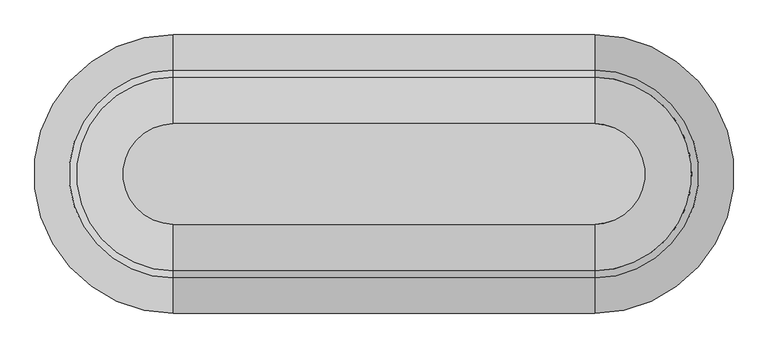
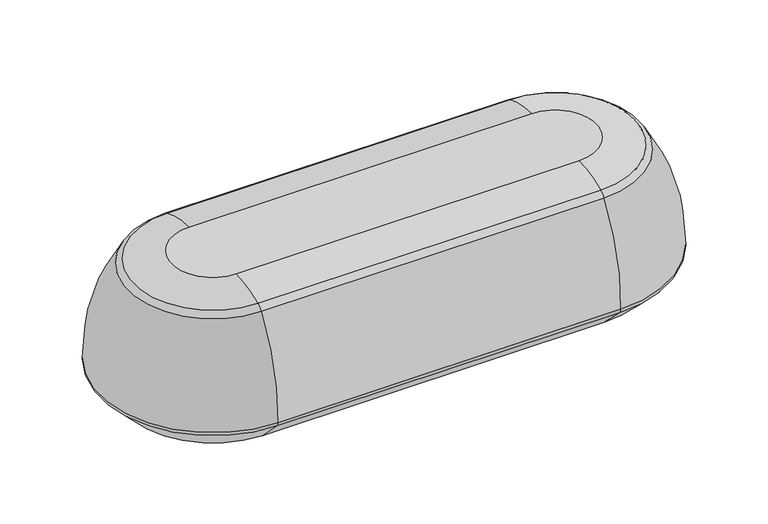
"""IFC4 building model written with IfcOpenShell, lengths in millimetres: furniture geometry, Pouf_Bensen_IlePouf_ILE004 : Pouf_Bensen_IlePouf_ILE004."""

from ifc_helpers import new_model, si_unit, point, frame, origin, place, context, project, spatial, polyline, circle_curve, ellipse_curve, trimmed, source, transform, mapped, element, save
from ifc_brep_helpers import plane_surface, cylinder_surface, revolved_surface, advanced_brep


def furniture_c3841720(model_context):
    return source(origin(), model_context, "Body", "AdvancedBrep", [
        advanced_brep(
        [(-499.4891283, -119.2740078, 420.0), (499.4891283, -119.2740078, 420.0), (499.4891283, 119.2740078, 420.0), (-499.4891283, 119.2740078, 420.0), (499.4891283, -249.1399046, 0.0), (-499.4891283, -249.1399046, 0.0), (-499.4891283, 249.1399046, 0.0), (499.4891283, 249.1399046, 0.0), (-499.4891283, -324.6759513, 75.5360466), (499.4891283, -324.6759513, 75.5360466), (499.4891283, -330.5227805, 89.0138906), (-499.4891283, -330.5227805, 89.0138906), (499.4891283, -246.8894749, 381.8574548), (-499.4891283, -246.8894749, 381.8574548), (499.4891283, -230.1522762, 396.0506005), (-499.4891283, -230.1522762, 396.0506005), (499.4891283, 324.6759513, 75.5360466), (-499.4891283, 324.6759513, 75.5360466), (-499.4891283, 330.5227805, 89.0138906), (499.4891283, 330.5227805, 89.0138906), (-499.4891283, 246.8894749, 381.8574548), (499.4891283, 246.8894749, 381.8574548), (-499.4891283, 230.1522762, 396.0506005), (499.4891283, 230.1522762, 396.0506005)],
        [
            (0, 1),
            (1, 2, circle_curve(frame((499.4891283, 0.0, 420.0), z_axis=(0.0, 0.0, 1.0), x_axis=(0.0, -1.0, 0.0)), 119.2740078)),
            (2, 3),
            (3, 0, circle_curve(frame((-499.4891283, 0.0, 420.0), z_axis=(0.0, 0.0, 1.0), x_axis=(0.0, 1.0, 0.0)), 119.2740078)),
            (4, 5),
            (5, 6, circle_curve(frame((-499.4891283, 0.0, 0.0), z_axis=(0.0, 0.0, -1.0), x_axis=(0.0, 1.0, 0.0)), 249.1399046)),
            (6, 7),
            (7, 4, circle_curve(frame((499.4891283, 0.0, 0.0), z_axis=(0.0, 0.0, -1.0), x_axis=(0.0, -1.0, 0.0)), 249.1399046)),
            (8, 5),
            (4, 9),
            (9, 8),
            (9, 10, circle_curve(frame((499.4891283, -310.5338157, 89.6781823), z_axis=(-1.0, 0.0, 0.0), x_axis=(0.0, 1.0, 0.0)), 20.0)),
            (10, 11),
            (11, 8, circle_curve(frame((-499.4891283, -310.5338157, 89.6781823), z_axis=(1.0, 0.0, 0.0), x_axis=(0.0, 1.0, 0.0)), 20.0)),
            (10, 12, circle_curve(frame((499.4891283, 166.1919068, 105.5211689), z_axis=(-1.0, 0.0, 0.0), x_axis=(0.0, 1.0, 0.0)), 496.9889042)),
            (12, 13),
            (13, 11, circle_curve(frame((-499.4891283, 166.1919068, 105.5211689), z_axis=(1.0, 0.0, 0.0), x_axis=(0.0, 1.0, 0.0)), 496.9889042)),
            (12, 14, circle_curve(frame((499.4891283, -213.6427462, 359.6166134), z_axis=(-1.0, 0.0, 0.0), x_axis=(0.0, 1.0, 0.0)), 40.0)),
            (14, 15),
            (15, 13, circle_curve(frame((-499.4891283, -213.6427462, 359.6166134), z_axis=(1.0, 0.0, 0.0), x_axis=(0.0, 1.0, 0.0)), 40.0)),
            (14, 1, circle_curve(frame((499.4891283, -119.2740078, 151.3593575), z_axis=(-1.0, 0.0, 0.0), x_axis=(0.0, 1.0, 0.0)), 268.6406425)),
            (0, 15, circle_curve(frame((-499.4891283, -119.2740078, 151.3593575), z_axis=(1.0, 0.0, 0.0), x_axis=(0.0, 1.0, 0.0)), 268.6406425)),
            (16, 7),
            (6, 17),
            (17, 16),
            (17, 18, circle_curve(frame((-499.4891283, 310.5338157, 89.6781823), z_axis=(1.0, 0.0, 0.0), x_axis=(0.0, -1.0, 0.0)), 20.0)),
            (18, 19),
            (19, 16, circle_curve(frame((499.4891283, 310.5338157, 89.6781823), z_axis=(-1.0, 0.0, 0.0), x_axis=(0.0, -1.0, 0.0)), 20.0)),
            (18, 20, circle_curve(frame((-499.4891283, -166.1919068, 105.5211689), z_axis=(1.0, 0.0, 0.0), x_axis=(0.0, -1.0, 0.0)), 496.9889042)),
            (20, 21),
            (21, 19, circle_curve(frame((499.4891283, -166.1919068, 105.5211689), z_axis=(-1.0, 0.0, 0.0), x_axis=(0.0, -1.0, 0.0)), 496.9889042)),
            (20, 22, circle_curve(frame((-499.4891283, 213.6427462, 359.6166134), z_axis=(1.0, 0.0, 0.0), x_axis=(0.0, -1.0, 0.0)), 40.0)),
            (22, 23),
            (23, 21, circle_curve(frame((499.4891283, 213.6427462, 359.6166134), z_axis=(-1.0, 0.0, 0.0), x_axis=(0.0, -1.0, 0.0)), 40.0)),
            (22, 3, circle_curve(frame((-499.4891283, 119.2740078, 151.3593575), z_axis=(1.0, 0.0, 0.0), x_axis=(0.0, -1.0, 0.0)), 268.6406425)),
            (2, 23, circle_curve(frame((499.4891283, 119.2740078, 151.3593575), z_axis=(-1.0, 0.0, 0.0), x_axis=(0.0, -1.0, 0.0)), 268.6406425)),
            (8, 17, circle_curve(frame((-499.4891283, 0.0, 75.5360466), z_axis=(0.0, 0.0, -1.0), x_axis=(0.0, 1.0, 0.0)), 324.6759513)),
            (11, 18, circle_curve(frame((-499.4891283, 0.0, 89.0138906), z_axis=(0.0, 0.0, -1.0), x_axis=(0.0, 1.0, 0.0)), 330.5227805)),
            (13, 20, circle_curve(frame((-499.4891283, 0.0, 381.8574548), z_axis=(0.0, 0.0, -1.0), x_axis=(0.0, 1.0, 0.0)), 246.8894749)),
            (15, 22, circle_curve(frame((-499.4891283, 0.0, 396.0506005), z_axis=(0.0, 0.0, -1.0), x_axis=(0.0, 1.0, 0.0)), 230.1522762)),
            (16, 9, circle_curve(frame((499.4891283, 0.0, 75.5360466), z_axis=(0.0, 0.0, -1.0), x_axis=(0.0, -1.0, 0.0)), 324.6759513)),
            (19, 10, circle_curve(frame((499.4891283, 0.0, 89.0138906), z_axis=(0.0, 0.0, -1.0), x_axis=(0.0, -1.0, 0.0)), 330.5227805)),
            (21, 12, circle_curve(frame((499.4891283, 0.0, 381.8574548), z_axis=(0.0, 0.0, -1.0), x_axis=(0.0, -1.0, 0.0)), 246.8894749)),
            (23, 14, circle_curve(frame((499.4891283, 0.0, 396.0506005), z_axis=(0.0, 0.0, -1.0), x_axis=(0.0, -1.0, 0.0)), 230.1522762)),
        ],
        [
            plane_surface(frame((-499.4891283, 119.2740078, 420.0), z_axis=(0.0, 0.0, 1.0), x_axis=(-1.0, 0.0, 0.0))),
            plane_surface(frame((-499.4891283, 119.2740078, 0.0), z_axis=(0.0, 0.0, -1.0), x_axis=(1.0, 0.0, 0.0))),
            plane_surface(frame((-499.4891283, -249.1399046, 0.0), z_axis=(0.0, -0.7071067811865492, -0.7071067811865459), x_axis=(1.0, 0.0, 0.0))),
            cylinder_surface(frame((-499.4891283, -310.5338157, 89.6781823), z_axis=(-1.0, 0.0, 0.0), x_axis=(0.0, 1.0, 0.0)), 20.0),
            cylinder_surface(frame((-499.4891283, 166.1919068, 105.5211689), z_axis=(-1.0, 0.0, 0.0), x_axis=(0.0, 1.0, 0.0)), 496.9889042),
            cylinder_surface(frame((-499.4891283, -213.6427462, 359.6166134), z_axis=(-1.0, 0.0, 0.0), x_axis=(0.0, 1.0, 0.0)), 40.0),
            cylinder_surface(frame((-499.4891283, -119.2740078, 151.3593575), z_axis=(-1.0, 0.0, 0.0), x_axis=(0.0, 1.0, 0.0)), 268.6406425),
            plane_surface(frame((499.4891283, 249.1399046, 0.0), z_axis=(0.0, 0.7071067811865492, -0.7071067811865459), x_axis=(-1.0, 0.0, 0.0))),
            cylinder_surface(frame((499.4891283, 310.5338157, 89.6781823), z_axis=(1.0, 0.0, 0.0), x_axis=(0.0, -1.0, 0.0)), 20.0),
            cylinder_surface(frame((499.4891283, -166.1919068, 105.5211689), z_axis=(1.0, 0.0, 0.0), x_axis=(0.0, -1.0, 0.0)), 496.9889042),
            cylinder_surface(frame((499.4891283, 213.6427462, 359.6166134), z_axis=(1.0, 0.0, 0.0), x_axis=(0.0, -1.0, 0.0)), 40.0),
            cylinder_surface(frame((499.4891283, 119.2740078, 151.3593575), z_axis=(1.0, 0.0, 0.0), x_axis=(0.0, -1.0, 0.0)), 268.6406425),
            revolved_surface(polyline([(-499.4891283, 249.1399046, 0.0), (-499.4891283, 324.6759513, 75.5360466)]), (-499.4891283, 0.0, 0.0), (0.0, 0.0, 1.0)),
            revolved_surface(trimmed(ellipse_curve(frame((-499.4891283, 310.5338157, 89.6781823), z_axis=(1.0, 0.0, 0.0), x_axis=(0.0, -1.0, 0.0)), 20.0, 20.0), [point((-499.4891283, 324.6759513, 75.5360466))], [point((-499.4891283, 330.5227805, 89.0138906))], True, "CARTESIAN"), (-499.4891283, 0.0, 0.0), (0.0, 0.0, 1.0)),
            revolved_surface(trimmed(ellipse_curve(frame((-499.4891283, -166.1919068, 105.5211689), z_axis=(1.0, 0.0, 0.0), x_axis=(0.0, -1.0, 0.0)), 496.9889042, 496.9889042), [point((-499.4891283, 330.5227805, 89.0138906))], [point((-499.4891283, 246.8894749, 381.8574548))], True, "CARTESIAN"), (-499.4891283, 0.0, 0.0), (0.0, 0.0, 1.0)),
            revolved_surface(trimmed(ellipse_curve(frame((-499.4891283, 213.6427462, 359.6166134), z_axis=(1.0, 0.0, 0.0), x_axis=(0.0, -1.0, 0.0)), 40.0, 40.0), [point((-499.4891283, 246.8894749, 381.8574548))], [point((-499.4891283, 230.1522762, 396.0506005))], True, "CARTESIAN"), (-499.4891283, 0.0, 0.0), (0.0, 0.0, 1.0)),
            revolved_surface(trimmed(ellipse_curve(frame((-499.4891283, 119.2740078, 151.3593575), z_axis=(1.0, 0.0, 0.0), x_axis=(0.0, -1.0, 0.0)), 268.6406425, 268.6406425), [point((-499.4891283, 230.1522762, 396.0506005))], [point((-499.4891283, 119.2740078, 420.0))], True, "CARTESIAN"), (-499.4891283, 0.0, 0.0), (0.0, 0.0, 1.0)),
            revolved_surface(polyline([(499.4891283, -249.1399046, 0.0), (499.4891283, -324.6759513, 75.5360466)]), (499.4891283, 0.0, 0.0), (0.0, 0.0, 1.0)),
            revolved_surface(trimmed(ellipse_curve(frame((499.4891283, -310.5338157, 89.6781823), z_axis=(-1.0, 0.0, 0.0), x_axis=(0.0, 1.0, 0.0)), 20.0, 20.0), [point((499.4891283, -324.6759513, 75.5360466))], [point((499.4891283, -330.5227805, 89.0138906))], True, "CARTESIAN"), (499.4891283, 0.0, 0.0), (0.0, 0.0, 1.0)),
            revolved_surface(trimmed(ellipse_curve(frame((499.4891283, 166.1919068, 105.5211689), z_axis=(-1.0, 0.0, 0.0), x_axis=(0.0, 1.0, 0.0)), 496.9889042, 496.9889042), [point((499.4891283, -330.5227805, 89.0138906))], [point((499.4891283, -246.8894749, 381.8574548))], True, "CARTESIAN"), (499.4891283, 0.0, 0.0), (0.0, 0.0, 1.0)),
            revolved_surface(trimmed(ellipse_curve(frame((499.4891283, -213.6427462, 359.6166134), z_axis=(-1.0, 0.0, 0.0), x_axis=(0.0, 1.0, 0.0)), 40.0, 40.0), [point((499.4891283, -246.8894749, 381.8574548))], [point((499.4891283, -230.1522762, 396.0506005))], True, "CARTESIAN"), (499.4891283, 0.0, 0.0), (0.0, 0.0, 1.0)),
            revolved_surface(trimmed(ellipse_curve(frame((499.4891283, -119.2740078, 151.3593575), z_axis=(-1.0, 0.0, 0.0), x_axis=(0.0, 1.0, 0.0)), 268.6406425, 268.6406425), [point((499.4891283, -230.1522762, 396.0506005))], [point((499.4891283, -119.2740078, 420.0))], True, "CARTESIAN"), (499.4891283, 0.0, 0.0), (0.0, 0.0, 1.0)),
        ],
        [
            (0, [[1, 2, 3, 4]]),
            (1, [[5, 6, 7, 8]]),
            (2, [[9, -5, 10, 11]]),
            (3, [[-11, 12, 13, 14]]),
            (4, [[-13, 15, 16, 17]]),
            (5, [[-16, 18, 19, 20]]),
            (6, [[-19, 21, -1, 22]]),
            (7, [[23, -7, 24, 25]]),
            (8, [[-25, 26, 27, 28]]),
            (9, [[-27, 29, 30, 31]]),
            (10, [[-30, 32, 33, 34]]),
            (11, [[-33, 35, -3, 36]]),
            (12, [[-9, 37, -24, -6]]),
            (13, [[-14, 38, -26, -37]]),
            (14, [[-17, 39, -29, -38]]),
            (15, [[-20, 40, -32, -39]]),
            (16, [[-22, -4, -35, -40]]),
            (17, [[-10, -8, -23, 41]]),
            (18, [[-12, -41, -28, 42]]),
            (19, [[-15, -42, -31, 43]]),
            (20, [[-18, -43, -34, 44]]),
            (21, [[-21, -44, -36, -2]]),
        ],
    ),
    ])


if __name__ == "__main__":
    model = new_model("IFC4")
    model_context = context("Model", 3, world=origin())
    ifc_project = project(units=[si_unit("LENGTHUNIT", "METRE", prefix="MILLI")], contexts=[model_context])
    site = spatial("IfcSite", under=ifc_project)
    building = spatial("IfcBuilding", under=site)
    placement = place(None, origin())
    furniture_shape = furniture_c3841720(model_context)
    element("IfcFurniture", 1, ObjectType="Pouf_Bensen_IlePouf_ILE004 : Pouf_Bensen_IlePouf_ILE004", at=placement, inside=building, context=model_context, shape_type="MappedRepresentation", body=[
        mapped(furniture_shape, transform((0.0, 0.0, 0.0), x_axis=(1.0, 0.0, 0.0), y_axis=(0.0, 1.0, 0.0), z_axis=(0.0, 0.0, 1.0))),
    ])
    save(model, "model.ifc")
